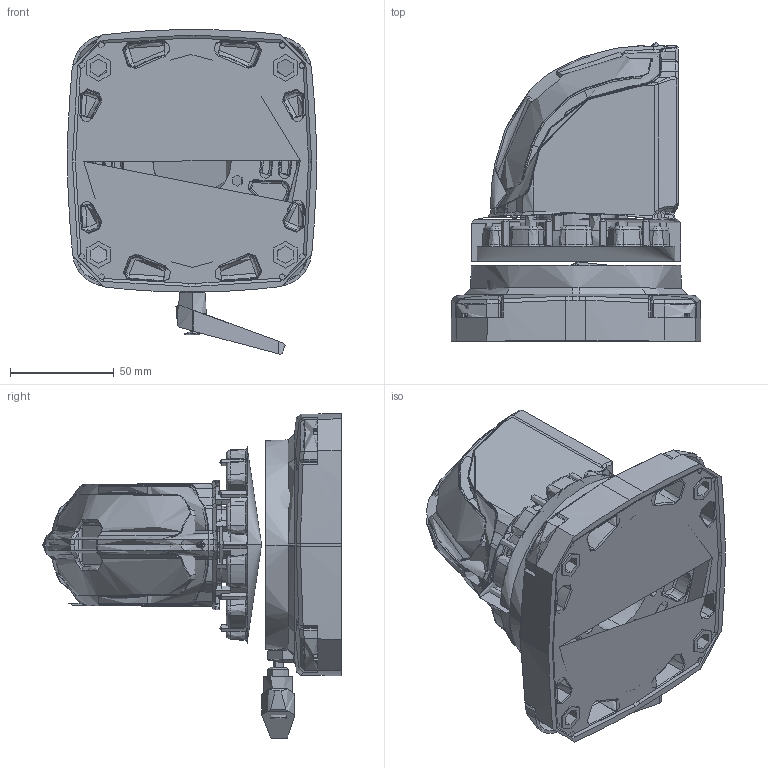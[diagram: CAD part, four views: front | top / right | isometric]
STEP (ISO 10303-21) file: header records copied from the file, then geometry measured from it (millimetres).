
FILE_DESCRIPTION (( 'STEP AP203' ), '1' );
FILE_NAME ('TP.045.1234.STEP', '2026-09-30T07:38:04', ( '' ), ( '' ), 'SwSTEP 2.0', 'SolidWorks 2015', '' );
FILE_SCHEMA (( 'CONFIG_CONTROL_DESIGN' ));
Products named in the file (7): TP.045.200; TP.045.Kapak; TP.045.1234; TP_045.600; kapak vida; TP.045.Serrated Washer
Assembly tree (9 placements, depth 3):
  TP.045.1234
    TP_045.600
    TP.045.Serrated Washer
    TP.045.200
      TP.045.200
      TP.045.Kapak
      kapak vida  x2
    kapak vida  x2
Bounding box: 120.28 x 143.86 x 156.36 mm (x, y, z)
Topology: 11 solids, 19 shells, 4113 faces, 10062 edges, 6010 vertices
Faces by surface type: bspline 2406, cylinder 561, plane 485, cone 399, torus 238, sphere 24
Entity records: 270514 total; most frequent: CARTESIAN_POINT 193860, ORIENTED_EDGE 19696, EDGE_CURVE 9848, DIRECTION 8980, B_SPLINE_CURVE_WITH_KNOTS 5970, VERTEX_POINT 5913, EDGE_LOOP 4183, ADVANCED_FACE 4029
